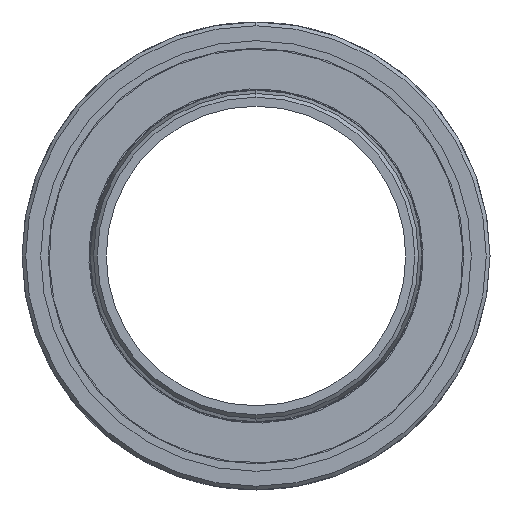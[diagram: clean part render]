
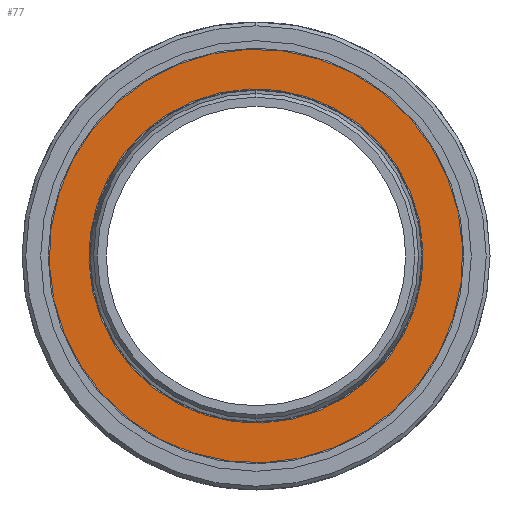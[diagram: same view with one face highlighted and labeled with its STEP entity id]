
A CAD part, left-side view. The second image highlights one B-rep face of the part: STEP entity #77.
In plain terms, the highlighted planar face has unit normal (-1, 0, 0).
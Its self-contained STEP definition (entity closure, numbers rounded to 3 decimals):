
#77 = ADVANCED_FACE ( 'NONE', ( #915, #919 ), #1568, .T. ) ;
#88 = AXIS2_PLACEMENT_3D ( 'NONE', #1631, #1630, #1629 ) ;
#658 = CARTESIAN_POINT ( 'NONE',  ( -510., 37.182, 40.866 ) ) ;
#661 = CARTESIAN_POINT ( 'NONE',  ( -510., -37.182, -40.866 ) ) ;
#663 = CARTESIAN_POINT ( 'NONE',  ( -510., -30.049, -33.026 ) ) ;
#665 = CARTESIAN_POINT ( 'NONE',  ( -510., 30.049, 33.026 ) ) ;
#738 = EDGE_CURVE ( 'NONE', #1958, #1960, #1021, .T. ) ;
#741 = EDGE_CURVE ( 'NONE', #1953, #1956, #1030, .T. ) ;
#745 = EDGE_CURVE ( 'NONE', #1956, #1953, #1034, .T. ) ;
#746 = EDGE_CURVE ( 'NONE', #1960, #1958, #1039, .T. ) ;
#802 = EDGE_LOOP ( 'NONE', ( #2486, #2487 ) ) ;
#915 = FACE_OUTER_BOUND ( 'NONE', #802, .T. ) ;
#919 = FACE_BOUND ( 'NONE', #2329, .T. ) ;
#1021 = CIRCLE ( 'NONE', #1270, 44.65 ) ;
#1030 = CIRCLE ( 'NONE', #1272, 55.25 ) ;
#1034 = CIRCLE ( 'NONE', #1274, 55.25 ) ;
#1039 = CIRCLE ( 'NONE', #1275, 44.65 ) ;
#1270 = AXIS2_PLACEMENT_3D ( 'NONE', #1509, #1510, #1511 ) ;
#1272 = AXIS2_PLACEMENT_3D ( 'NONE', #1519, #1520, #1521 ) ;
#1274 = AXIS2_PLACEMENT_3D ( 'NONE', #1526, #1527, #1528 ) ;
#1275 = AXIS2_PLACEMENT_3D ( 'NONE', #1529, #1530, #1531 ) ;
#1509 = CARTESIAN_POINT ( 'NONE',  ( -510., 0., 0. ) ) ;
#1510 = DIRECTION ( 'NONE',  ( -1., 0., 0. ) ) ;
#1511 = DIRECTION ( 'NONE',  ( 0., 0.673, 0.74 ) ) ;
#1519 = CARTESIAN_POINT ( 'NONE',  ( -510., 0., 0. ) ) ;
#1520 = DIRECTION ( 'NONE',  ( -1., 0., 0. ) ) ;
#1521 = DIRECTION ( 'NONE',  ( 0., 0.673, 0.74 ) ) ;
#1526 = CARTESIAN_POINT ( 'NONE',  ( -510., 0., 0. ) ) ;
#1527 = DIRECTION ( 'NONE',  ( -1., 0., 0. ) ) ;
#1528 = DIRECTION ( 'NONE',  ( 0., 0.673, 0.74 ) ) ;
#1529 = CARTESIAN_POINT ( 'NONE',  ( -510., 0., 0. ) ) ;
#1530 = DIRECTION ( 'NONE',  ( -1., 0., 0. ) ) ;
#1531 = DIRECTION ( 'NONE',  ( 0., 0.673, 0.74 ) ) ;
#1568 = PLANE ( 'NONE',  #88 ) ;
#1629 = DIRECTION ( 'NONE',  ( 0., 0.673, 0.74 ) ) ;
#1630 = DIRECTION ( 'NONE',  ( -1., 0., 0. ) ) ;
#1631 = CARTESIAN_POINT ( 'NONE',  ( -510., 0., 0. ) ) ;
#1953 = VERTEX_POINT ( 'NONE', #658 ) ;
#1956 = VERTEX_POINT ( 'NONE', #661 ) ;
#1958 = VERTEX_POINT ( 'NONE', #663 ) ;
#1960 = VERTEX_POINT ( 'NONE', #665 ) ;
#2329 = EDGE_LOOP ( 'NONE', ( #2488, #2489 ) ) ;
#2486 = ORIENTED_EDGE ( 'NONE', *, *, #745, .T. ) ;
#2487 = ORIENTED_EDGE ( 'NONE', *, *, #741, .T. ) ;
#2488 = ORIENTED_EDGE ( 'NONE', *, *, #738, .F. ) ;
#2489 = ORIENTED_EDGE ( 'NONE', *, *, #746, .F. ) ;
